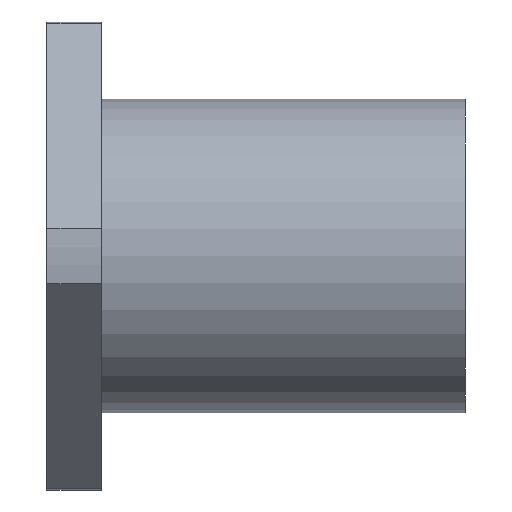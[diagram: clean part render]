
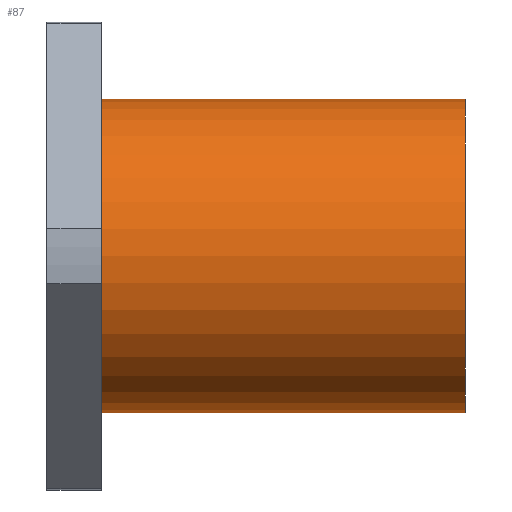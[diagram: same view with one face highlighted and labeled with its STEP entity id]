
A CAD part, front view. The second image highlights one B-rep face of the part: STEP entity #87.
In plain terms, the highlighted cylindrical face has radius 37.5 mm (diameter 75 mm), a full revolution.
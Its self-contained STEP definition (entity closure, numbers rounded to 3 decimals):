
#87 = ADVANCED_FACE( '', ( #138, #139 ), #140, .T. );
#138 = FACE_OUTER_BOUND( '', #213, .T. );
#139 = FACE_OUTER_BOUND( '', #214, .T. );
#140 = CYLINDRICAL_SURFACE( '', #215, 37.5 );
#213 = EDGE_LOOP( '', ( #347 ) );
#214 = EDGE_LOOP( '', ( #348 ) );
#215 = AXIS2_PLACEMENT_3D( '', #349, #350, #351 );
#347 = ORIENTED_EDGE( '', *, *, #438, .T. );
#348 = ORIENTED_EDGE( '', *, *, #450, .F. );
#349 = CARTESIAN_POINT( '', ( 100., 0., 0. ) );
#350 = DIRECTION( '', ( -1., 0., 0. ) );
#351 = DIRECTION( '', ( 0., 0., -1. ) );
#438 = EDGE_CURVE( '', #500, #500, #501, .T. );
#450 = EDGE_CURVE( '', #522, #522, #523, .T. );
#500 = VERTEX_POINT( '', #594 );
#501 = CIRCLE( '', #595, 37.5 );
#522 = VERTEX_POINT( '', #618 );
#523 = CIRCLE( '', #619, 37.5 );
#594 = CARTESIAN_POINT( '', ( 13., 0., -37.5 ) );
#595 = AXIS2_PLACEMENT_3D( '', #678, #679, #680 );
#618 = CARTESIAN_POINT( '', ( 100., 0., -37.5 ) );
#619 = AXIS2_PLACEMENT_3D( '', #710, #711, #712 );
#678 = CARTESIAN_POINT( '', ( 13., 0., 0. ) );
#679 = DIRECTION( '', ( 1., 0., 0. ) );
#680 = DIRECTION( '', ( 0., 0., -1. ) );
#710 = CARTESIAN_POINT( '', ( 100., 0., 0. ) );
#711 = DIRECTION( '', ( 1., 0., 0. ) );
#712 = DIRECTION( '', ( 0., 0., -1. ) );
